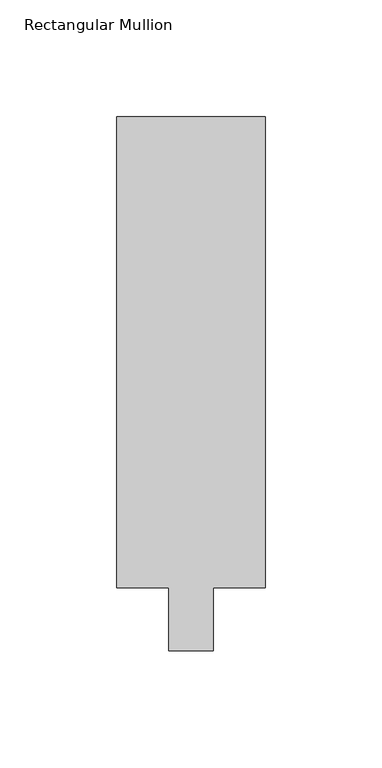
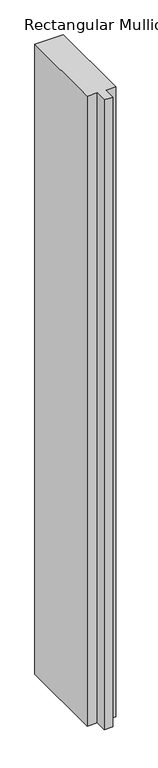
"""IFC4 building model written with IfcOpenShell, lengths in millimetres: member geometry."""

from ifc_helpers import new_model, si_unit, frame, origin, place, context, project, spatial, polyline, outline, extrude, source, transform, mapped, element, save


def rectangular_mullion_8cb9c72c(model_context):
    return source(origin(), model_context, "Body", "SweptSolid", [
        extrude(outline(polyline([(-63.5, 228.6), (0.0, 228.6), (0.0, 26.9875), (-22.225, 26.9875), (-22.225, 0.0), (-41.275, 0.0), (-41.275, 26.9875), (-63.5, 26.9875), (-63.5, 228.6)])), frame((0.0, 0.0, -1483.2363175), z_axis=(0.0, 0.0, 1.0), x_axis=(1.0, 0.0, 0.0)), (0.0, 0.0, 1.0), 1483.2363175),
    ])


if __name__ == "__main__":
    model = new_model("IFC4")
    model_context = context("Model", 3, world=origin())
    ifc_project = project(units=[si_unit("LENGTHUNIT", "METRE", prefix="MILLI")], contexts=[model_context])
    site = spatial("IfcSite", under=ifc_project)
    building = spatial("IfcBuilding", under=site)
    placement = place(None, origin())
    rectangular_mullion_shape = rectangular_mullion_8cb9c72c(model_context)
    element("IfcMember", 1, ObjectType="Rectangular Mullion : 2 1/2\" x 8\" - Capless", at=placement, inside=building, context=model_context, shape_type="MappedRepresentation", body=[
        mapped(rectangular_mullion_shape, transform((0.0, 0.0, 0.0), x_axis=(1.0, 0.0, 0.0), y_axis=(0.0, 1.0, 0.0), z_axis=(0.0, 0.0, 1.0))),
    ])
    save(model, "model.ifc")
